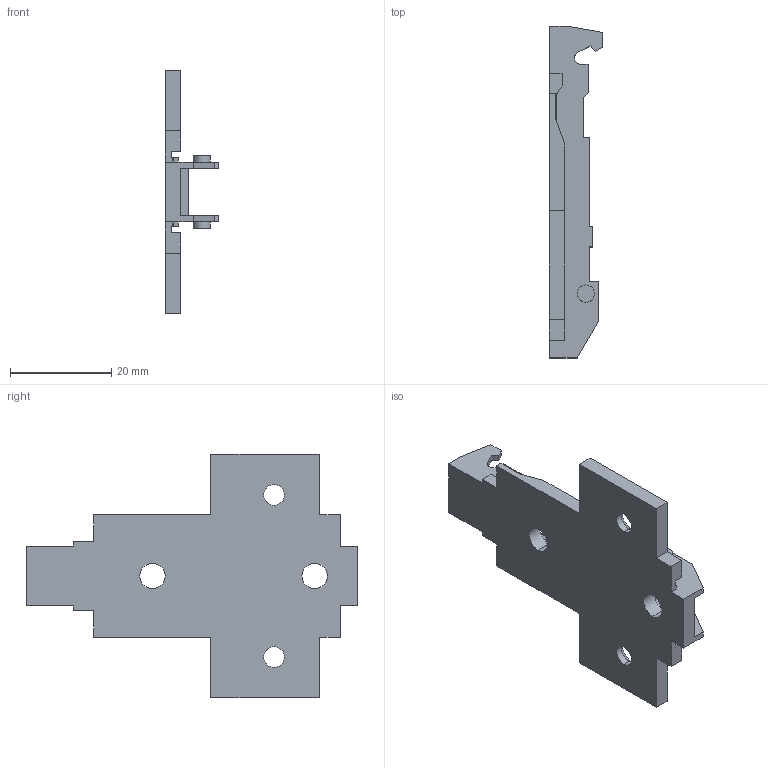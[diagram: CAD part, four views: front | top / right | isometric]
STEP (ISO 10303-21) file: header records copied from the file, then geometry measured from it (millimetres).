
FILE_DESCRIPTION (( 'STEP AP214' ), '1' );
FILE_NAME ('1D_Kreuzmontageplatte 28_32_Spax_0.step', '2010-11-18T10:18:28', ( 'grass' ), ( '' ), 'SwSTEP 2.0', 'SolidWorks 2010', '' );
FILE_SCHEMA (( 'AUTOMOTIVE_DESIGN' ));
Length unit declared in the file: millimetre
Products named in the file (1): 1D_Kreuzmontageplatte 28_32_Spax_0
Bounding box: 10.5 x 65.5 x 48 mm (x, y, z)
Volume: 6006.1 mm3; surface area: 6119.6 mm2
Topology: 1 solids, 1 shells, 104 faces, 296 edges, 196 vertices
Faces by surface type: plane 82, cylinder 18, cone 4
Entity records: 3398 total; most frequent: CARTESIAN_POINT 597, ORIENTED_EDGE 592, DIRECTION 546, EDGE_CURVE 296, VECTOR 256, LINE 256, VERTEX_POINT 196, AXIS2_PLACEMENT_3D 145
